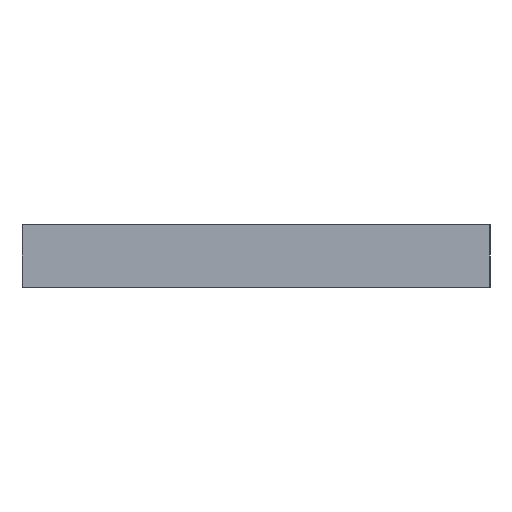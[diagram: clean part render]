
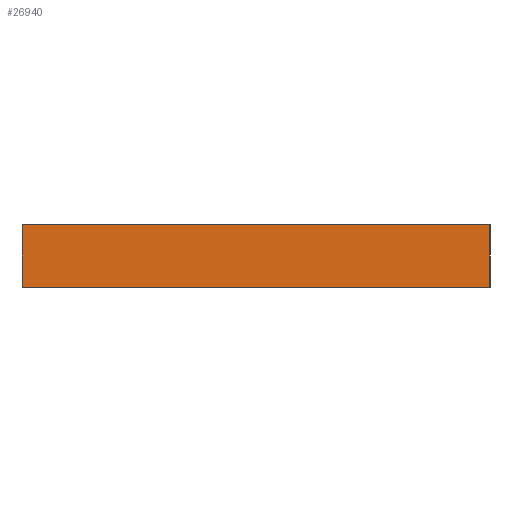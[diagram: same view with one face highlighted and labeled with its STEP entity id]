
A CAD part, left-side view. The second image highlights one B-rep face of the part: STEP entity #26940.
In plain terms, the highlighted planar face has unit normal (-1, 0, 0).
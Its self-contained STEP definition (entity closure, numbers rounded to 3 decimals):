
#2571=FACE_OUTER_BOUND('',#3925,.T.);
#3925=EDGE_LOOP('',(#24633,#24634,#24635,#24636));
#6214=LINE('',#42502,#9355);
#7065=LINE('',#44431,#10206);
#7070=LINE('',#44440,#10211);
#7071=LINE('',#44442,#10212);
#9355=VECTOR('',#34488,10.);
#10206=VECTOR('',#36533,10.);
#10211=VECTOR('',#36542,10.);
#10212=VECTOR('',#36545,10.);
#12331=VERTEX_POINT('',#42500);
#12332=VERTEX_POINT('',#42501);
#12813=VERTEX_POINT('',#44429);
#12815=VERTEX_POINT('',#44438);
#15774=EDGE_CURVE('',#12331,#12332,#6214,.T.);
#16753=EDGE_CURVE('',#12813,#12331,#7065,.T.);
#16758=EDGE_CURVE('',#12815,#12332,#7070,.T.);
#16759=EDGE_CURVE('',#12813,#12815,#7071,.T.);
#24633=ORIENTED_EDGE('',*,*,#16759,.T.);
#24634=ORIENTED_EDGE('',*,*,#16758,.T.);
#24635=ORIENTED_EDGE('',*,*,#15774,.F.);
#24636=ORIENTED_EDGE('',*,*,#16753,.F.);
#25593=PLANE('',#29104);
#26940=ADVANCED_FACE('',(#2571),#25593,.T.);
#29104=AXIS2_PLACEMENT_3D('',#44441,#36543,#36544);
#34488=DIRECTION('',(0.,-1.,0.));
#36533=DIRECTION('',(0.,0.,1.));
#36542=DIRECTION('',(0.,0.,1.));
#36543=DIRECTION('center_axis',(-1.,0.,0.));
#36544=DIRECTION('ref_axis',(0.,-1.,0.));
#36545=DIRECTION('',(0.,-1.,0.));
#42500=CARTESIAN_POINT('',(0.,30.,4.));
#42501=CARTESIAN_POINT('',(0.,0.,4.));
#42502=CARTESIAN_POINT('',(0.,30.,4.));
#44429=CARTESIAN_POINT('',(0.,30.,0.));
#44431=CARTESIAN_POINT('',(0.,30.,0.));
#44438=CARTESIAN_POINT('',(0.,0.,0.));
#44440=CARTESIAN_POINT('',(0.,0.,0.));
#44441=CARTESIAN_POINT('Origin',(0.,30.,0.));
#44442=CARTESIAN_POINT('',(0.,30.,0.));
